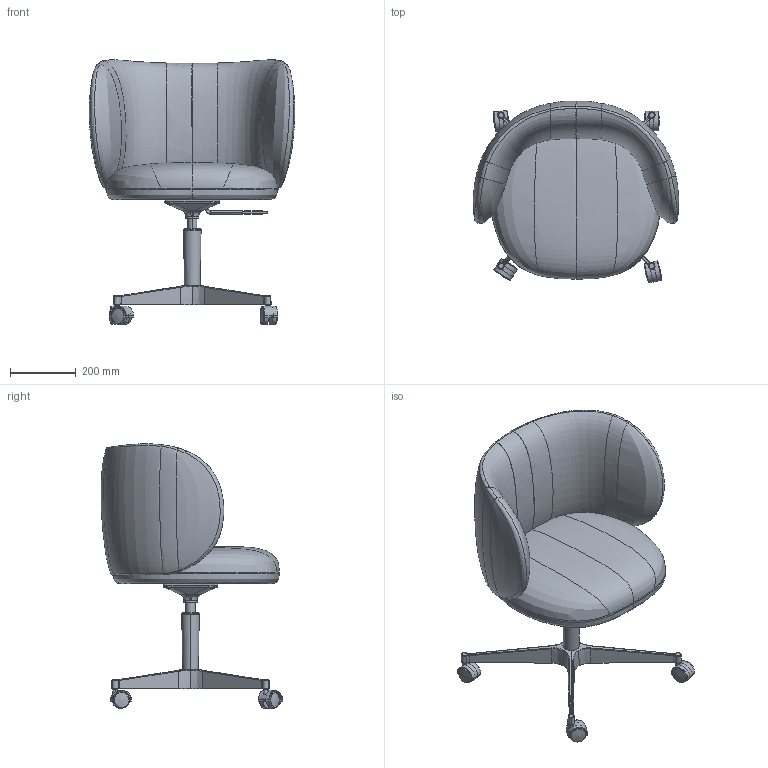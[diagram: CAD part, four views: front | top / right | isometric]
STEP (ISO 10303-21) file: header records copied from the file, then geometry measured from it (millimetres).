
FILE_DESCRIPTION(/* description */ (''),/* implementation_level */ '2;1');
FILE_NAME(/* name */ 'Rico dining chair with castors_3D',/* time_stamp */ '2024-09-03T14:58:46+02:00',/* author */ (''),/* organization */ (''),/* preprocessor_version */ 'ST-DEVELOPER v16.5',/* originating_system */ 'Rhino 7.37',/* authorisation */ '');
FILE_SCHEMA (('CONFIG_CONTROL_DESIGN'));
Length unit declared in the file: millimetre
Products named in the file (7): Document; Caster 2; Caster 26; Caster 24; Caster 22; Caster top; Block 01
Assembly tree (6 placements, depth 2):
  Document
    Caster 2
    Caster 26
    Caster 24
    Caster 22
    Caster top
    Block 01
Bounding box: 626.25 x 553.57 x 806.03 mm (x, y, z)
Volume: 22514954.7 mm3; surface area: 2325956.4 mm2
Topology: 19 solids, 22 shells, 725 faces, 1800 edges, 1131 vertices
Faces by surface type: bspline 332, cylinder 197, plane 196
Entity records: 110475 total; most frequent: CARTESIAN_POINT 98558, ORIENTED_EDGE 3576, EDGE_CURVE 1797, B_SPLINE_CURVE_WITH_KNOTS 1150, VERTEX_POINT 1132, EDGE_LOOP 790, ADVANCED_FACE 725, FACE_OUTER_BOUND 725
